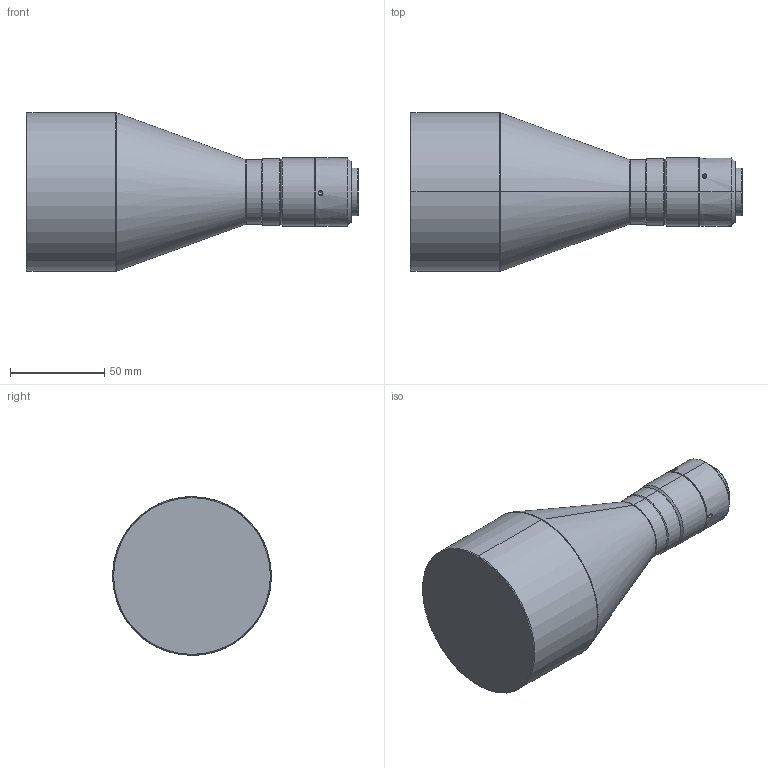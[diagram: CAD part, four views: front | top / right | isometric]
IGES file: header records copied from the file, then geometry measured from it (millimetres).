
Start section: SolidWorks IGES file using analytic representation for surfaces
Global section: file name: D:\撮扲窒\3D俋倛芞\3D   igs\DTCM\DTCM230\DTCM230-64H-AL.IGS; native system: SolidWorks 2012; preprocessor: SolidWorks 2012; author: ZXC; date: 180726.092721; units: millimetre
Bounding box: 175.7 x 84 x 84 mm (x, y, z)
Surface area: 40491.2 mm2 (no closed solid volume)
Topology: 0 solids, 0 shells, 53 faces, 962 edges, 956 vertices
Faces by surface type: revolution 42, bspline 11
